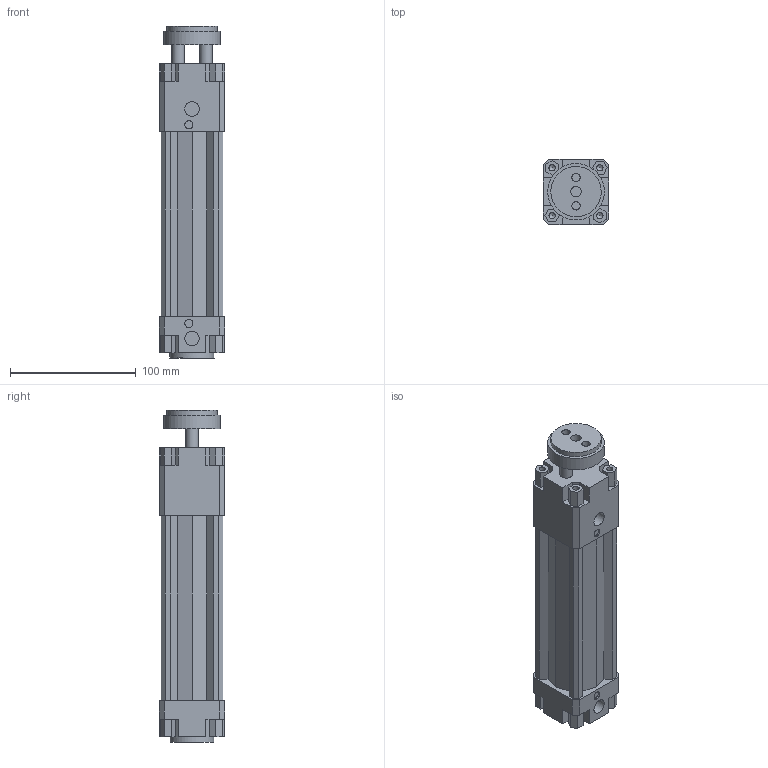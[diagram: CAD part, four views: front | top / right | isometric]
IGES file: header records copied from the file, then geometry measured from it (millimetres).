
Global section: file name: 134#_040_0100_01; native system: Autodesk Inventor 2014; preprocessor: unknown; author: A. Manieri; date: 20161006.164242; units: millimetre
Bounding box: 52 x 52 x 264 mm (x, y, z)
Volume: 409137.9 mm3; surface area: 110038.3 mm2
Topology: 2 solids, 2 shells, 180 faces, 492 edges, 336 vertices
Faces by surface type: bspline 180
